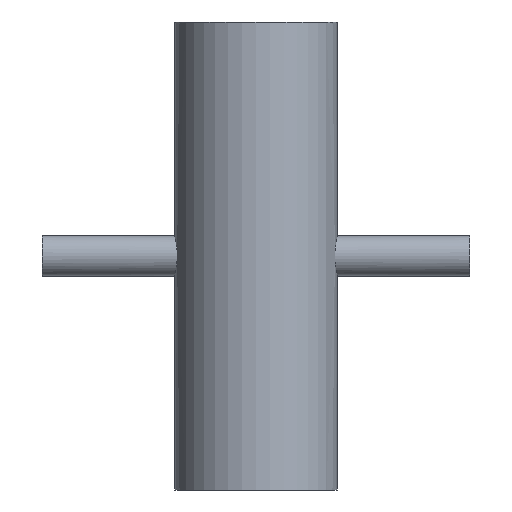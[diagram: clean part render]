
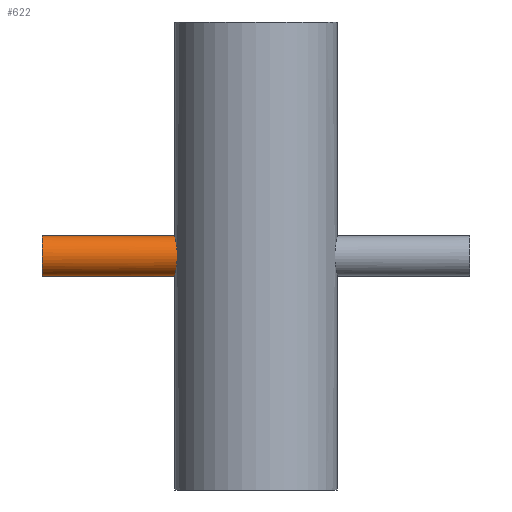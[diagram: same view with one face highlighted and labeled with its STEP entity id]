
A CAD part, front view. The second image highlights one B-rep face of the part: STEP entity #622.
In plain terms, the highlighted cylindrical face has radius 6.35 mm (diameter 12.7 mm), a partial arc.
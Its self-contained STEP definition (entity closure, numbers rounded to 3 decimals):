
#1 = CARTESIAN_POINT ( 'NONE',  ( -24.752, -5.705, 2.82 ) ) ;
#24 = CARTESIAN_POINT ( 'NONE',  ( -25.36, -1.445, 6.187 ) ) ;
#33 = CARTESIAN_POINT ( 'NONE',  ( -24.648, -6.134, 1.654 ) ) ;
#41 = DIRECTION ( 'NONE',  ( 0., 0., -1. ) ) ;
#53 = CARTESIAN_POINT ( 'NONE',  ( -24.797, -5.501, -3.179 ) ) ;
#64 = CARTESIAN_POINT ( 'NONE',  ( -25.4, 0., 6.35 ) ) ;
#69 = LINE ( 'NONE', #205, #85 ) ;
#79 = ORIENTED_EDGE ( 'NONE', *, *, #228, .F. ) ;
#84 = CARTESIAN_POINT ( 'NONE',  ( -25.4, -0.421, 6.35 ) ) ;
#85 = VECTOR ( 'NONE', #545, 1000. ) ;
#92 = ORIENTED_EDGE ( 'NONE', *, *, #173, .T. ) ;
#114 = CARTESIAN_POINT ( 'NONE',  ( -24.675, -6.026, -2.045 ) ) ;
#119 = CARTESIAN_POINT ( 'NONE',  ( -25.389, -0.843, -6.308 ) ) ;
#131 = CARTESIAN_POINT ( 'NONE',  ( -25.39, -0.835, 6.309 ) ) ;
#134 = EDGE_CURVE ( 'NONE', #176, #667, #433, .T. ) ;
#144 = AXIS2_PLACEMENT_3D ( 'NONE', #375, #477, #813 ) ;
#155 = FACE_OUTER_BOUND ( 'NONE', #308, .T. ) ;
#157 = CARTESIAN_POINT ( 'NONE',  ( -24.973, -4.639, -4.341 ) ) ;
#162 = VECTOR ( 'NONE', #820, 1000. ) ;
#169 = CARTESIAN_POINT ( 'NONE',  ( -66.675, 0., 6.35 ) ) ;
#173 = EDGE_CURVE ( 'NONE', #596, #190, #422, .T. ) ;
#176 = VERTEX_POINT ( 'NONE', #351 ) ;
#190 = VERTEX_POINT ( 'NONE', #787 ) ;
#205 = CARTESIAN_POINT ( 'NONE',  ( -66.675, 0., -6.35 ) ) ;
#228 = EDGE_CURVE ( 'NONE', #596, #176, #384, .T. ) ;
#245 = CARTESIAN_POINT ( 'NONE',  ( -24.732, -5.787, -2.623 ) ) ;
#250 = CARTESIAN_POINT ( 'NONE',  ( -24.895, -5.042, -3.865 ) ) ;
#277 = CYLINDRICAL_SURFACE ( 'NONE', #733, 6.35 ) ;
#308 = EDGE_LOOP ( 'NONE', ( #79, #92, #344, #432 ) ) ;
#316 = CARTESIAN_POINT ( 'NONE',  ( -25.318, -2.047, 6.015 ) ) ;
#320 = CARTESIAN_POINT ( 'NONE',  ( -24.635, -6.186, 1.45 ) ) ;
#324 = CARTESIAN_POINT ( 'NONE',  ( -25.32, -2.056, -6.022 ) ) ;
#328 = CARTESIAN_POINT ( 'NONE',  ( -25.4, -0.421, -6.35 ) ) ;
#344 = ORIENTED_EDGE ( 'NONE', *, *, #783, .T. ) ;
#351 = CARTESIAN_POINT ( 'NONE',  ( -25.4, 0., 6.35 ) ) ;
#371 = CARTESIAN_POINT ( 'NONE',  ( -25.246, -2.821, 5.704 ) ) ;
#375 = CARTESIAN_POINT ( 'NONE',  ( -66.675, 0., 0. ) ) ;
#379 = CARTESIAN_POINT ( 'NONE',  ( -24.947, -4.78, -4.186 ) ) ;
#384 = LINE ( 'NONE', #169, #162 ) ;
#386 = CARTESIAN_POINT ( 'NONE',  ( -66.675, 0., 6.35 ) ) ;
#387 = CARTESIAN_POINT ( 'NONE',  ( -25.202, -3.185, 5.509 ) ) ;
#389 = CARTESIAN_POINT ( 'NONE',  ( -25.129, -3.702, 5.164 ) ) ;
#393 = CARTESIAN_POINT ( 'NONE',  ( -25.104, -3.87, 5.039 ) ) ;
#422 = CIRCLE ( 'NONE', #144, 6.35 ) ;
#432 = ORIENTED_EDGE ( 'NONE', *, *, #134, .F. ) ;
#433 = B_SPLINE_CURVE_WITH_KNOTS ( 'NONE', 3,
 ( #64, #84, #131, #24, #609, #316, #541, #371, #387, #389, #393, #442, #454, #480, #789, #601, #1, #767, #550, #33, #320, #704, #708, #644, #796, #818, #114, #245, #438, #53, #690, #563, #250, #379, #157, #792, #502, #497, #790, #324, #620, #119, #328, #556 ),
 .UNSPECIFIED., .F., .F.,
 ( 4, 2, 2, 2, 2, 2, 2, 2, 2, 2, 2, 2, 2, 2, 2, 2, 2, 2, 2, 2, 2, 4 ),
 ( 0., 0.001, 0.002, 0.002, 0.004, 0.004, 0.005, 0.006, 0.007, 0.008, 0.009, 0.01, 0.011, 0.012, 0.013, 0.014, 0.014, 0.015, 0.016, 0.017, 0.019, 0.02 ),
 .UNSPECIFIED. ) ;
#438 = CARTESIAN_POINT ( 'NONE',  ( -24.753, -5.697, -2.813 ) ) ;
#442 = CARTESIAN_POINT ( 'NONE',  ( -25.052, -4.192, 4.775 ) ) ;
#454 = CARTESIAN_POINT ( 'NONE',  ( -25.026, -4.345, 4.636 ) ) ;
#477 = DIRECTION ( 'NONE',  ( 1., 0., 0. ) ) ;
#480 = CARTESIAN_POINT ( 'NONE',  ( -24.948, -4.782, 4.198 ) ) ;
#497 = CARTESIAN_POINT ( 'NONE',  ( -25.201, -3.194, -5.504 ) ) ;
#502 = CARTESIAN_POINT ( 'NONE',  ( -25.104, -3.88, -5.044 ) ) ;
#541 = CARTESIAN_POINT ( 'NONE',  ( -25.301, -2.245, 5.944 ) ) ;
#545 = DIRECTION ( 'NONE',  ( 1., 0., 0. ) ) ;
#547 = CARTESIAN_POINT ( 'NONE',  ( -25.4, 0., -6.35 ) ) ;
#550 = CARTESIAN_POINT ( 'NONE',  ( -24.678, -6.013, 2.053 ) ) ;
#556 = CARTESIAN_POINT ( 'NONE',  ( -25.4, 0., -6.35 ) ) ;
#558 = DIRECTION ( 'NONE',  ( 1., 0., 0. ) ) ;
#563 = CARTESIAN_POINT ( 'NONE',  ( -24.87, -5.165, -3.7 ) ) ;
#596 = VERTEX_POINT ( 'NONE', #386 ) ;
#601 = CARTESIAN_POINT ( 'NONE',  ( -24.797, -5.508, 3.187 ) ) ;
#609 = CARTESIAN_POINT ( 'NONE',  ( -25.347, -1.647, 6.136 ) ) ;
#620 = CARTESIAN_POINT ( 'NONE',  ( -25.349, -1.66, -6.143 ) ) ;
#622 = ADVANCED_FACE ( 'NONE', ( #155 ), #277, .T. ) ;
#644 = CARTESIAN_POINT ( 'NONE',  ( -24.593, -6.35, -0.41 ) ) ;
#667 = VERTEX_POINT ( 'NONE', #547 ) ;
#690 = CARTESIAN_POINT ( 'NONE',  ( -24.821, -5.394, -3.356 ) ) ;
#692 = CARTESIAN_POINT ( 'NONE',  ( -66.675, 0., 0. ) ) ;
#704 = CARTESIAN_POINT ( 'NONE',  ( -24.604, -6.309, 0.835 ) ) ;
#708 = CARTESIAN_POINT ( 'NONE',  ( -24.594, -6.35, 0.422 ) ) ;
#733 = AXIS2_PLACEMENT_3D ( 'NONE', #692, #558, #41 ) ;
#767 = CARTESIAN_POINT ( 'NONE',  ( -24.695, -5.943, 2.247 ) ) ;
#783 = EDGE_CURVE ( 'NONE', #190, #667, #69, .T. ) ;
#787 = CARTESIAN_POINT ( 'NONE',  ( -66.675, 0., -6.35 ) ) ;
#789 = CARTESIAN_POINT ( 'NONE',  ( -24.895, -5.044, 3.88 ) ) ;
#790 = CARTESIAN_POINT ( 'NONE',  ( -25.246, -2.822, -5.703 ) ) ;
#792 = CARTESIAN_POINT ( 'NONE',  ( -25.052, -4.198, -4.782 ) ) ;
#796 = CARTESIAN_POINT ( 'NONE',  ( -24.604, -6.309, -0.833 ) ) ;
#813 = DIRECTION ( 'NONE',  ( 0., 0., -1. ) ) ;
#818 = CARTESIAN_POINT ( 'NONE',  ( -24.645, -6.146, -1.648 ) ) ;
#820 = DIRECTION ( 'NONE',  ( 1., 0., 0. ) ) ;
